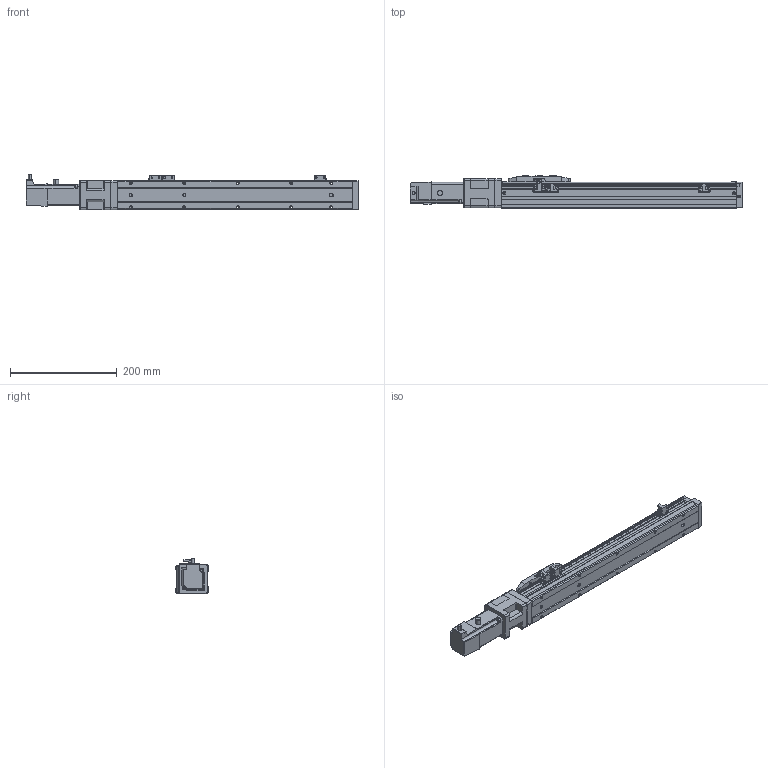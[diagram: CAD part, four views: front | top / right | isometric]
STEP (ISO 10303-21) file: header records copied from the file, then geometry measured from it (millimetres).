
FILE_DESCRIPTION (( 'STEP AP203' ), '1' );
FILE_NAME ('CTH5-L10-S300-BC-C10(¼ò).STEP', '2023-02-04T02:09:24', ( '' ), ( '' ), 'SwSTEP 2.0', 'SolidWorks 2018', '' );
FILE_SCHEMA (( 'CONFIG_CONTROL_DESIGN' ));
Length unit declared in the file: millimetre
Products named in the file (21): CTH5萇儂釱欶; CTH5覜茼え; CTH5耜晚蹟隊-1; 100W萇儂; CTH5菁釱-L440; 葩璃 蚾饜极13^CTH8-L10-S50-BM-C40(潠)1; CTH5-L10-S300-BC-C10(潠); CTH嫖萇羲壽假蚾啣; hex nuts, style 1-grades ab gb_GB_FASTENER_NUT_SNAB1 M3-N; CTH5耜晚蹟隊; 内六角圆柱头螺钉M3-2; CTH5綴耜啣; PM-Y45; CTH5賑怢; CTH5-BC-03; 嫖萇羲壽郪磁1; M3; CTH5ヶ耜啣(潠); CTH5萇儂釱; M3｡｣; T10-p1
Assembly tree (37 placements, depth 3):
  CTH5-L10-S300-BC-C10(潠)
    CTH5綴耜啣
    CTH5賑怢
    CTH5ヶ耜啣(潠)
    CTH5菁釱-L440
    CTH5耜晚蹟隊  x2
    CTH5萇儂釱
      CTH5-BC-03
    CTH5萇儂釱欶
    100W萇儂
      T10-p1
    嫖萇羲壽郪磁1  x2
      CTH嫖萇羲壽假蚾啣
      PM-Y45
      M3｡｣
      内六角圆柱头螺钉M3-2
      hex nuts, style 1-grades ab gb_GB_FASTENER_NUT_SNAB1 M3-N
    CTH5覜茼え
    葩璃 蚾饜极13^CTH8-L10-S50-BM-C40(潠)1
      CTH嫖萇羲壽假蚾啣
      PM-Y45
      内六角圆柱头螺钉M3-2  x2
      M3｡｣  x2
      hex nuts, style 1-grades ab gb_GB_FASTENER_NUT_SNAB1 M3-N  x2
    M3  x2
    CTH5耜晚蹟隊-1  x4
Bounding box: 621.1 x 60 x 65.7 mm (x, y, z)
Volume: 1302733.3 mm3; surface area: 204844.1 mm2
Topology: 40 solids, 40 shells, 1503 faces, 3744 edges, 2418 vertices
Faces by surface type: plane 848, cylinder 434, cone 159, torus 44, bspline 18
Entity records: 33441 total; most frequent: CARTESIAN_POINT 6132, DIRECTION 5260, ORIENTED_EDGE 5036, EDGE_CURVE 2518, AXIS2_PLACEMENT_3D 1805, VECTOR 1650, LINE 1650, VERTEX_POINT 1624
